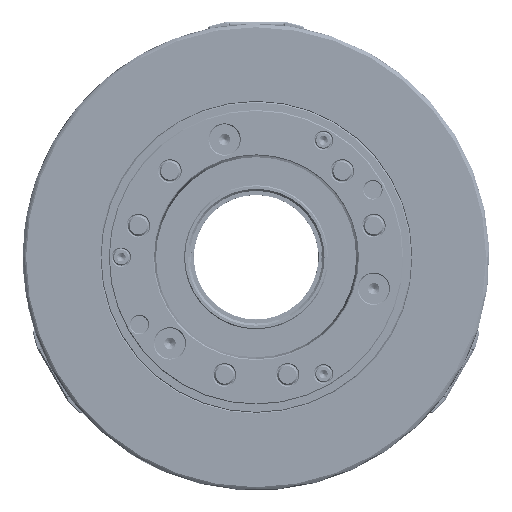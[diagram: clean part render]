
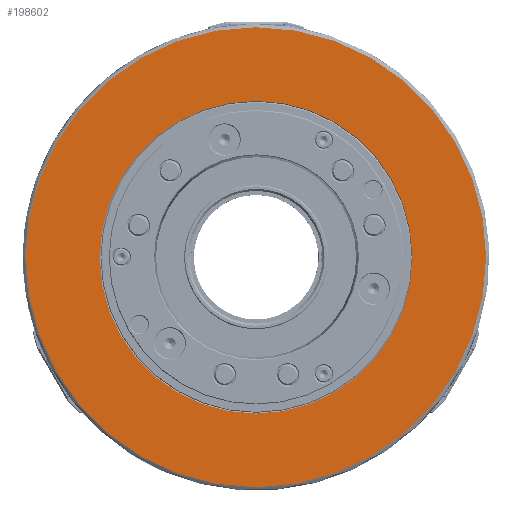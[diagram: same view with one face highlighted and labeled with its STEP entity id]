
A CAD part, front view. The second image highlights one B-rep face of the part: STEP entity #198602.
In plain terms, the highlighted planar face has unit normal (0, -1, 0).
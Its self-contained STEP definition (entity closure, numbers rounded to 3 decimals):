
#54390=PLANE('',#210794);
#58551=FACE_BOUND('',#72091,.T.);
#62328=FACE_OUTER_BOUND('',#72090,.T.);
#72090=EDGE_LOOP('',(#152384));
#72091=EDGE_LOOP('',(#152385));
#79277=CIRCLE('',#210189,221.794);
#79279=CIRCLE('',#210192,150.721);
#86984=VERTEX_POINT('',#296589);
#86986=VERTEX_POINT('',#296594);
#110338=EDGE_CURVE('',#86984,#86984,#79277,.T.);
#110340=EDGE_CURVE('',#86986,#86986,#79279,.T.);
#152384=ORIENTED_EDGE('',*,*,#110338,.T.);
#152385=ORIENTED_EDGE('',*,*,#110340,.T.);
#198602=ADVANCED_FACE('',(#62328,#58551),#54390,.T.);
#210189=AXIS2_PLACEMENT_3D('',#296590,#239080,#239081);
#210192=AXIS2_PLACEMENT_3D('',#296595,#239086,#239087);
#210794=AXIS2_PLACEMENT_3D('',#299859,#240576,#240577);
#239080=DIRECTION('center_axis',(0.,-1.,0.));
#239081=DIRECTION('ref_axis',(0.,0.,1.));
#239086=DIRECTION('center_axis',(0.,1.,0.));
#239087=DIRECTION('ref_axis',(0.,0.,-1.));
#240576=DIRECTION('center_axis',(0.,-1.,0.));
#240577=DIRECTION('ref_axis',(0.,0.,-1.));
#296589=CARTESIAN_POINT('',(0.,0.,
-221.794));
#296590=CARTESIAN_POINT('Origin',(0.,0.,0.));
#296594=CARTESIAN_POINT('',(0.,0.,
150.721));
#296595=CARTESIAN_POINT('Origin',(0.,0.,0.));
#299859=CARTESIAN_POINT('Origin',(0.,0.,0.));
